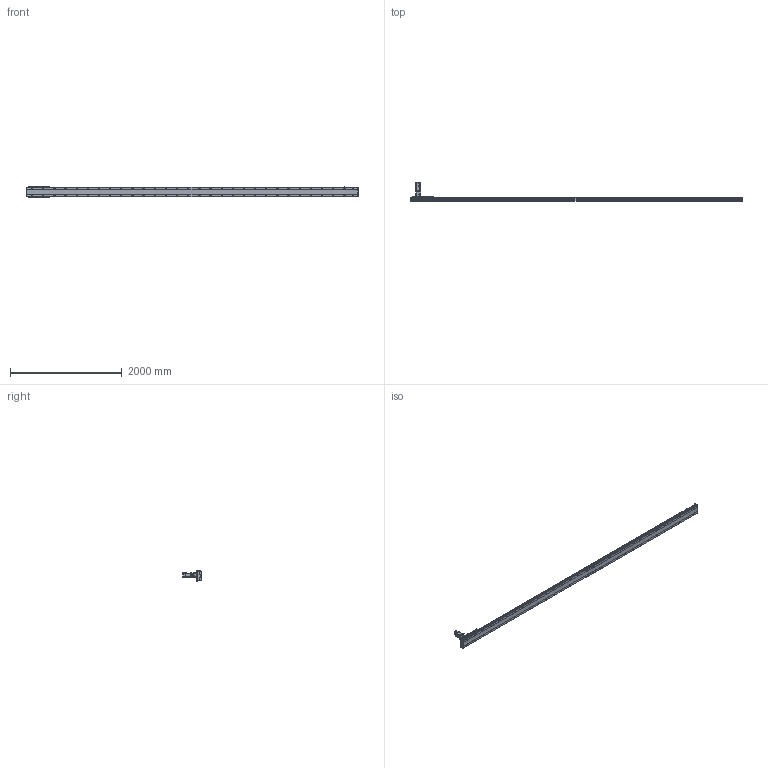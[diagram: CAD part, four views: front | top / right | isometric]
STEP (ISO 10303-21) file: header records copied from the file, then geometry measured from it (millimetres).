
FILE_DESCRIPTION(/* description */ ('STEP AP203'),/* implementation_level */ '2;1');
FILE_NAME(/* name */ 'SHS17A-L13-S5500-BC-T75-C1-N(0)',/* time_stamp */ '2023-03-27T08:59:51+02:00',/* author */ ('License CC BY-ND 4.0'),/* organization */ ('CADENAS'),/* preprocessor_version */ 'ST-DEVELOPER v19.3',/* originating_system */ 'PARTsolutions',/* authorisation */ ' ');
FILE_SCHEMA (('CONFIG_CONTROL_DESIGN'));
Length unit declared in the file: millimetre
Products named in the file (7): SHS17A-L13-S5500-BC-T75-C1-N(0); PSC140-sensor; SHS17A-S5500(0)_body2; T75-p1; SHS17A-S5500_body3; SHS17A-S5500-C1(0)_slider; SHS17A-S5500-C1(0)_body
Assembly tree (13 placements, depth 2):
  SHS17A-L13-S5500-BC-T75-C1-N(0)
    PSC140-sensor  x3
    SHS17A-S5500(0)_body2  x6
    T75-p1
    SHS17A-S5500_body3
    SHS17A-S5500-C1(0)_slider
    SHS17A-S5500-C1(0)_body
Bounding box: 5954 x 333.8 x 193.4 mm (x, y, z)
Volume: 39592762.3 mm3; surface area: 4501284 mm2
Topology: 13 solids, 13 shells, 2616 faces, 6701 edges, 4360 vertices
Faces by surface type: plane 1559, cylinder 940, cone 114, torus 3
Full cylindrical faces by diameter (mm): 2.8 x3, 4.134 x24, 4.5 x2, 4.6 x3, 4.917 x15, 5.5 x48, 6 x7, 6.5 x24, 6.647 x68, 6.8 x9, 8 x3, 8.5 x60, 10 x28, 11 x4, 14 x60, 22 x1, 24 x1, 24.2 x1, 28 x1, 28.2 x1, 28.8 x1, 29.8 x1, 48.542 x1, 68 x1, 70 x1, 78 x1, 80 x2
Entity records: 55584 total; most frequent: CARTESIAN_POINT 11388, DIRECTION 8923, ORIENTED_EDGE 8700, EDGE_CURVE 4350, AXIS2_PLACEMENT_3D 3222, VERTEX_POINT 3067, EDGE_LOOP 2607, FACE_BOUND 2607
